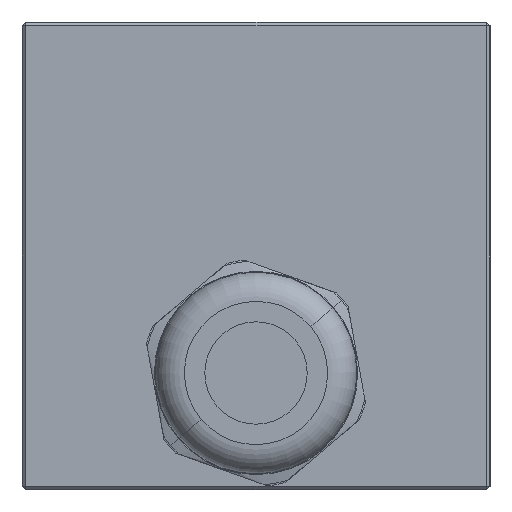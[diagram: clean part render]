
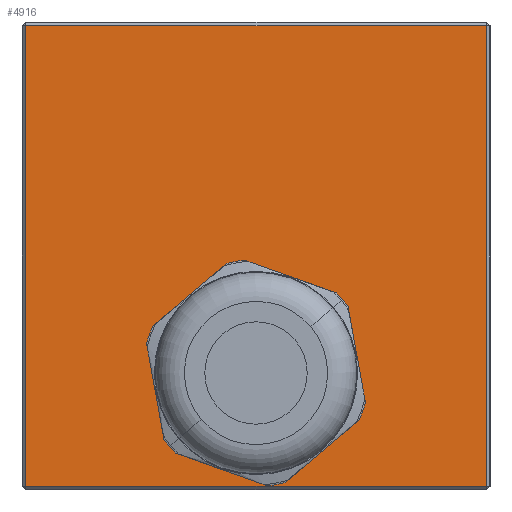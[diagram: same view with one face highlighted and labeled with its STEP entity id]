
A CAD part, left-side view. The second image highlights one B-rep face of the part: STEP entity #4916.
In plain terms, the highlighted planar face has unit normal (-1, 0, 0).
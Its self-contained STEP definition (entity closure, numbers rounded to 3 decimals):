
#6 = ORIENTED_EDGE ( 'NONE', *, *, #493, .T. ) ;
#39 = DIRECTION ( 'NONE',  ( 0., -0.942, -0.337 ) ) ;
#87 = CIRCLE ( 'NONE', #5984, 7.75 ) ;
#198 = ORIENTED_EDGE ( 'NONE', *, *, #2251, .T. ) ;
#244 = ORIENTED_EDGE ( 'NONE', *, *, #3072, .T. ) ;
#332 = CARTESIAN_POINT ( 'NONE',  ( 0., 10.511, -2.529 ) ) ;
#493 = EDGE_CURVE ( 'NONE', #3998, #3392, #3761, .T. ) ;
#499 = DIRECTION ( 'NONE',  ( 1., 0., 0. ) ) ;
#579 = ORIENTED_EDGE ( 'NONE', *, *, #2208, .T. ) ;
#679 = EDGE_CURVE ( 'NONE', #6388, #4850, #3240, .T. ) ;
#714 = ORIENTED_EDGE ( 'NONE', *, *, #2837, .T. ) ;
#828 = DIRECTION ( 'NONE',  ( 0., -0.762, 0.647 ) ) ;
#866 = CARTESIAN_POINT ( 'NONE',  ( 0., 16., -8. ) ) ;
#877 = CARTESIAN_POINT ( 'NONE',  ( 0., 0.25, 16. ) ) ;
#995 = LINE ( 'NONE', #4196, #2385 ) ;
#1025 = CARTESIAN_POINT ( 'NONE',  ( 0., 17.994, -0.511 ) ) ;
#1226 = AXIS2_PLACEMENT_3D ( 'NONE', #866, #3123, #6407 ) ;
#1237 = CARTESIAN_POINT ( 'NONE',  ( 0., 16., -8. ) ) ;
#1277 = CARTESIAN_POINT ( 'NONE',  ( 0., 14.006, -15.489 ) ) ;
#1505 = DIRECTION ( 'NONE',  ( 1., 0., 0. ) ) ;
#1523 = VERTEX_POINT ( 'NONE', #7512 ) ;
#1548 = DIRECTION ( 'NONE',  ( 0., 1., 0. ) ) ;
#1601 = LINE ( 'NONE', #877, #3509 ) ;
#1669 = EDGE_CURVE ( 'NONE', #9013, #6388, #4487, .T. ) ;
#1737 = LINE ( 'NONE', #8119, #9024 ) ;
#1760 = DIRECTION ( 'NONE',  ( 0., 0.762, -0.647 ) ) ;
#1797 = ORIENTED_EDGE ( 'NONE', *, *, #4287, .T. ) ;
#2084 = EDGE_CURVE ( 'NONE', #8080, #9013, #7443, .T. ) ;
#2208 = EDGE_CURVE ( 'NONE', #1523, #9824, #7851, .T. ) ;
#2251 = EDGE_CURVE ( 'NONE', #5680, #1523, #2495, .T. ) ;
#2335 = CARTESIAN_POINT ( 'NONE',  ( 0., 21.489, -13.471 ) ) ;
#2385 = VECTOR ( 'NONE', #39, 1000. ) ;
#2401 = PLANE ( 'NONE',  #8164 ) ;
#2452 = VERTEX_POINT ( 'NONE', #332 ) ;
#2472 = LINE ( 'NONE', #6503, #8181 ) ;
#2495 = CIRCLE ( 'NONE', #7912, 7.75 ) ;
#2550 = CARTESIAN_POINT ( 'NONE',  ( 0., 0., 15.75 ) ) ;
#2731 = ORIENTED_EDGE ( 'NONE', *, *, #9692, .T. ) ;
#2792 = DIRECTION ( 'NONE',  ( 0., 0.762, -0.647 ) ) ;
#2837 = EDGE_CURVE ( 'NONE', #9824, #8080, #4177, .T. ) ;
#2861 = LINE ( 'NONE', #3074, #9538 ) ;
#2908 = DIRECTION ( 'NONE',  ( 0., 0.762, -0.647 ) ) ;
#2912 = CARTESIAN_POINT ( 'NONE',  ( 0., 31.75, -15.75 ) ) ;
#3072 = EDGE_CURVE ( 'NONE', #6978, #8795, #1601, .T. ) ;
#3074 = CARTESIAN_POINT ( 'NONE',  ( 0., 8.389, -10.722 ) ) ;
#3123 = DIRECTION ( 'NONE',  ( 1., 0., 0. ) ) ;
#3195 = EDGE_CURVE ( 'NONE', #8795, #3998, #4868, .T. ) ;
#3240 = LINE ( 'NONE', #7170, #6252 ) ;
#3248 = CARTESIAN_POINT ( 'NONE',  ( 0., 0., 16. ) ) ;
#3392 = VERTEX_POINT ( 'NONE', #2912 ) ;
#3415 = VERTEX_POINT ( 'NONE', #9413 ) ;
#3509 = VECTOR ( 'NONE', #4130, 1000. ) ;
#3532 = CARTESIAN_POINT ( 'NONE',  ( 0., 0.25, 15.75 ) ) ;
#3629 = EDGE_CURVE ( 'NONE', #2452, #9157, #4686, .T. ) ;
#3635 = DIRECTION ( 'NONE',  ( 0., 0.942, 0.337 ) ) ;
#3637 = EDGE_LOOP ( 'NONE', ( #1797, #8654, #4301, #5145, #2731, #8966, #198, #579, #714, #8699, #4963, #9588, #4326 ) ) ;
#3645 = CARTESIAN_POINT ( 'NONE',  ( 0., 8.517, -10.018 ) ) ;
#3675 = VECTOR ( 'NONE', #1548, 1000. ) ;
#3691 = DIRECTION ( 'NONE',  ( 0., 0.762, -0.647 ) ) ;
#3741 = CARTESIAN_POINT ( 'NONE',  ( 0., 23.483, -5.982 ) ) ;
#3761 = LINE ( 'NONE', #10281, #4371 ) ;
#3801 = DIRECTION ( 'NONE',  ( 0., 0.762, -0.647 ) ) ;
#3998 = VERTEX_POINT ( 'NONE', #7162 ) ;
#4028 = DIRECTION ( 'NONE',  ( 0., 0., -1. ) ) ;
#4116 = DIRECTION ( 'NONE',  ( 0., -0.179, -0.984 ) ) ;
#4130 = DIRECTION ( 'NONE',  ( 0., 0., 1. ) ) ;
#4141 = CARTESIAN_POINT ( 'NONE',  ( 0., 8.935, -11.185 ) ) ;
#4177 = CIRCLE ( 'NONE', #5533, 7.75 ) ;
#4187 = VERTEX_POINT ( 'NONE', #4141 ) ;
#4196 = CARTESIAN_POINT ( 'NONE',  ( 0., 17.448, -0.048 ) ) ;
#4287 = EDGE_CURVE ( 'NONE', #3415, #2452, #995, .T. ) ;
#4301 = ORIENTED_EDGE ( 'NONE', *, *, #9110, .T. ) ;
#4318 = AXIS2_PLACEMENT_3D ( 'NONE', #8493, #9085, #2792 ) ;
#4326 = ORIENTED_EDGE ( 'NONE', *, *, #5397, .T. ) ;
#4330 = VECTOR ( 'NONE', #3635, 1000. ) ;
#4371 = VECTOR ( 'NONE', #10334, 1000. ) ;
#4487 = CIRCLE ( 'NONE', #7228, 7.75 ) ;
#4549 = VERTEX_POINT ( 'NONE', #3645 ) ;
#4557 = VERTEX_POINT ( 'NONE', #10168 ) ;
#4637 = CARTESIAN_POINT ( 'NONE',  ( 0., 22.291, -12.527 ) ) ;
#4686 = CIRCLE ( 'NONE', #4318, 7.75 ) ;
#4834 = VECTOR ( 'NONE', #9198, 1000. ) ;
#4850 = VERTEX_POINT ( 'NONE', #1025 ) ;
#4868 = LINE ( 'NONE', #2550, #3675 ) ;
#4916 = ADVANCED_FACE ( 'NONE', ( #7286, #8083 ), #2401, .F. ) ;
#4963 = ORIENTED_EDGE ( 'NONE', *, *, #1669, .T. ) ;
#5094 = EDGE_CURVE ( 'NONE', #4187, #5680, #2861, .T. ) ;
#5145 = ORIENTED_EDGE ( 'NONE', *, *, #6880, .T. ) ;
#5282 = DIRECTION ( 'NONE',  ( 1., 0., 0. ) ) ;
#5397 = EDGE_CURVE ( 'NONE', #4850, #3415, #10229, .T. ) ;
#5533 = AXIS2_PLACEMENT_3D ( 'NONE', #9804, #8258, #1760 ) ;
#5680 = VERTEX_POINT ( 'NONE', #1277 ) ;
#5819 = EDGE_LOOP ( 'NONE', ( #244, #7710, #6, #6896 ) ) ;
#5984 = AXIS2_PLACEMENT_3D ( 'NONE', #7737, #499, #3691 ) ;
#6077 = CARTESIAN_POINT ( 'NONE',  ( 0., 16., -8. ) ) ;
#6252 = VECTOR ( 'NONE', #828, 1000. ) ;
#6289 = CARTESIAN_POINT ( 'NONE',  ( 0., 10.091, -2.985 ) ) ;
#6321 = CARTESIAN_POINT ( 'NONE',  ( 0., 16., -8. ) ) ;
#6357 = AXIS2_PLACEMENT_3D ( 'NONE', #6321, #1505, #7978 ) ;
#6388 = VERTEX_POINT ( 'NONE', #6394 ) ;
#6394 = CARTESIAN_POINT ( 'NONE',  ( 0., 23.065, -4.815 ) ) ;
#6407 = DIRECTION ( 'NONE',  ( 0., 0.762, -0.647 ) ) ;
#6503 = CARTESIAN_POINT ( 'NONE',  ( 0., 0., -15.75 ) ) ;
#6880 = EDGE_CURVE ( 'NONE', #4557, #4549, #1737, .T. ) ;
#6896 = ORIENTED_EDGE ( 'NONE', *, *, #7407, .T. ) ;
#6978 = VERTEX_POINT ( 'NONE', #7185 ) ;
#7162 = CARTESIAN_POINT ( 'NONE',  ( 0., 31.75, 15.75 ) ) ;
#7170 = CARTESIAN_POINT ( 'NONE',  ( 0., 23.611, -5.278 ) ) ;
#7185 = CARTESIAN_POINT ( 'NONE',  ( 0., 0.25, -15.75 ) ) ;
#7228 = AXIS2_PLACEMENT_3D ( 'NONE', #1237, #7291, #9001 ) ;
#7286 = FACE_OUTER_BOUND ( 'NONE', #5819, .T. ) ;
#7291 = DIRECTION ( 'NONE',  ( 1., 0., 0. ) ) ;
#7407 = EDGE_CURVE ( 'NONE', #3392, #6978, #2472, .T. ) ;
#7443 = LINE ( 'NONE', #7544, #4834 ) ;
#7512 = CARTESIAN_POINT ( 'NONE',  ( 0., 15.225, -15.711 ) ) ;
#7544 = CARTESIAN_POINT ( 'NONE',  ( 0., 22.163, -13.23 ) ) ;
#7710 = ORIENTED_EDGE ( 'NONE', *, *, #3195, .T. ) ;
#7737 = CARTESIAN_POINT ( 'NONE',  ( 0., 16., -8. ) ) ;
#7851 = LINE ( 'NONE', #10209, #4330 ) ;
#7912 = AXIS2_PLACEMENT_3D ( 'NONE', #6077, #5282, #2908 ) ;
#7978 = DIRECTION ( 'NONE',  ( 0., 0.762, -0.647 ) ) ;
#8065 = CIRCLE ( 'NONE', #6357, 7.75 ) ;
#8080 = VERTEX_POINT ( 'NONE', #4637 ) ;
#8083 = FACE_BOUND ( 'NONE', #3637, .T. ) ;
#8102 = DIRECTION ( 'NONE',  ( 0., -1., 0. ) ) ;
#8119 = CARTESIAN_POINT ( 'NONE',  ( 0., 9.837, -2.77 ) ) ;
#8164 = AXIS2_PLACEMENT_3D ( 'NONE', #3248, #9801, #4028 ) ;
#8181 = VECTOR ( 'NONE', #8102, 1000. ) ;
#8258 = DIRECTION ( 'NONE',  ( 1., 0., 0. ) ) ;
#8493 = CARTESIAN_POINT ( 'NONE',  ( 0., 16., -8. ) ) ;
#8654 = ORIENTED_EDGE ( 'NONE', *, *, #3629, .T. ) ;
#8699 = ORIENTED_EDGE ( 'NONE', *, *, #2084, .T. ) ;
#8795 = VERTEX_POINT ( 'NONE', #3532 ) ;
#8966 = ORIENTED_EDGE ( 'NONE', *, *, #5094, .T. ) ;
#9001 = DIRECTION ( 'NONE',  ( 0., 0.762, -0.647 ) ) ;
#9013 = VERTEX_POINT ( 'NONE', #3741 ) ;
#9024 = VECTOR ( 'NONE', #4116, 1000. ) ;
#9085 = DIRECTION ( 'NONE',  ( 1., 0., 0. ) ) ;
#9110 = EDGE_CURVE ( 'NONE', #9157, #4557, #87, .T. ) ;
#9157 = VERTEX_POINT ( 'NONE', #6289 ) ;
#9198 = DIRECTION ( 'NONE',  ( 0., 0.179, 0.984 ) ) ;
#9413 = CARTESIAN_POINT ( 'NONE',  ( 0., 16.775, -0.289 ) ) ;
#9538 = VECTOR ( 'NONE', #3801, 1000. ) ;
#9588 = ORIENTED_EDGE ( 'NONE', *, *, #679, .T. ) ;
#9692 = EDGE_CURVE ( 'NONE', #4549, #4187, #8065, .T. ) ;
#9801 = DIRECTION ( 'NONE',  ( 1., 0., 0. ) ) ;
#9804 = CARTESIAN_POINT ( 'NONE',  ( 0., 16., -8. ) ) ;
#9824 = VERTEX_POINT ( 'NONE', #2335 ) ;
#10168 = CARTESIAN_POINT ( 'NONE',  ( 0., 9.709, -3.473 ) ) ;
#10209 = CARTESIAN_POINT ( 'NONE',  ( 0., 14.552, -15.952 ) ) ;
#10229 = CIRCLE ( 'NONE', #1226, 7.75 ) ;
#10281 = CARTESIAN_POINT ( 'NONE',  ( 0., 31.75, 16. ) ) ;
#10334 = DIRECTION ( 'NONE',  ( 0., 0., -1. ) ) ;
